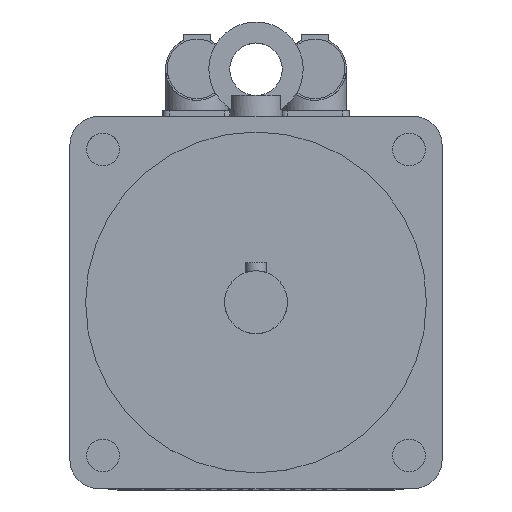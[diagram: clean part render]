
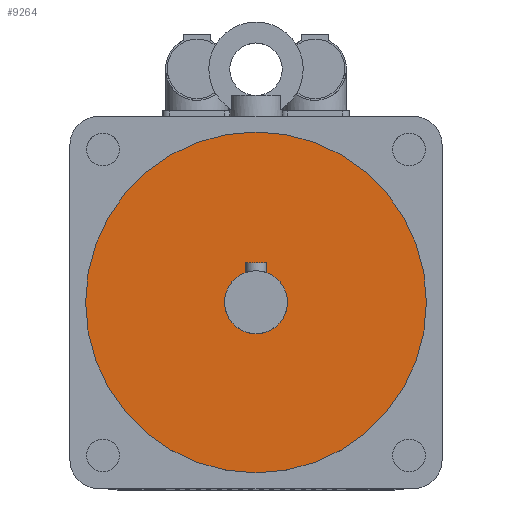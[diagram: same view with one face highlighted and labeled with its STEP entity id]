
A CAD part, top view. The second image highlights one B-rep face of the part: STEP entity #9264.
In plain terms, the highlighted planar face has unit normal (0, 0, 1).
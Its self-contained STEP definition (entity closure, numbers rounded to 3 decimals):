
#107=FACE_BOUND('',#909,.T.);
#283=FACE_OUTER_BOUND('',#908,.T.);
#908=EDGE_LOOP('',(#6623));
#909=EDGE_LOOP('',(#6624));
#1470=CIRCLE('',#9861,12.);
#1471=CIRCLE('',#9863,65.);
#4215=VERTEX_POINT('',#14403);
#4216=VERTEX_POINT('',#14406);
#5156=EDGE_CURVE('',#4215,#4215,#1470,.T.);
#5157=EDGE_CURVE('',#4216,#4216,#1471,.T.);
#6623=ORIENTED_EDGE('',*,*,#5157,.F.);
#6624=ORIENTED_EDGE('',*,*,#5156,.T.);
#8816=PLANE('',#9862);
#9264=ADVANCED_FACE('',(#283,#107),#8816,.T.);
#9861=AXIS2_PLACEMENT_3D('',#14404,#11242,#11243);
#9862=AXIS2_PLACEMENT_3D('',#14405,#11244,#11245);
#9863=AXIS2_PLACEMENT_3D('',#14407,#11246,#11247);
#11242=DIRECTION('center_axis',(0.,0.,-1.));
#11243=DIRECTION('ref_axis',(1.,0.,0.));
#11244=DIRECTION('center_axis',(0.,0.,1.));
#11245=DIRECTION('ref_axis',(1.,0.,0.));
#11246=DIRECTION('center_axis',(0.,0.,-1.));
#11247=DIRECTION('ref_axis',(1.,0.,0.));
#14403=CARTESIAN_POINT('',(0.,12.,267.));
#14404=CARTESIAN_POINT('Origin',(0.,0.,267.));
#14405=CARTESIAN_POINT('Origin',(0.,65.,267.));
#14406=CARTESIAN_POINT('',(0.,65.,267.));
#14407=CARTESIAN_POINT('Origin',(0.,0.,267.));
